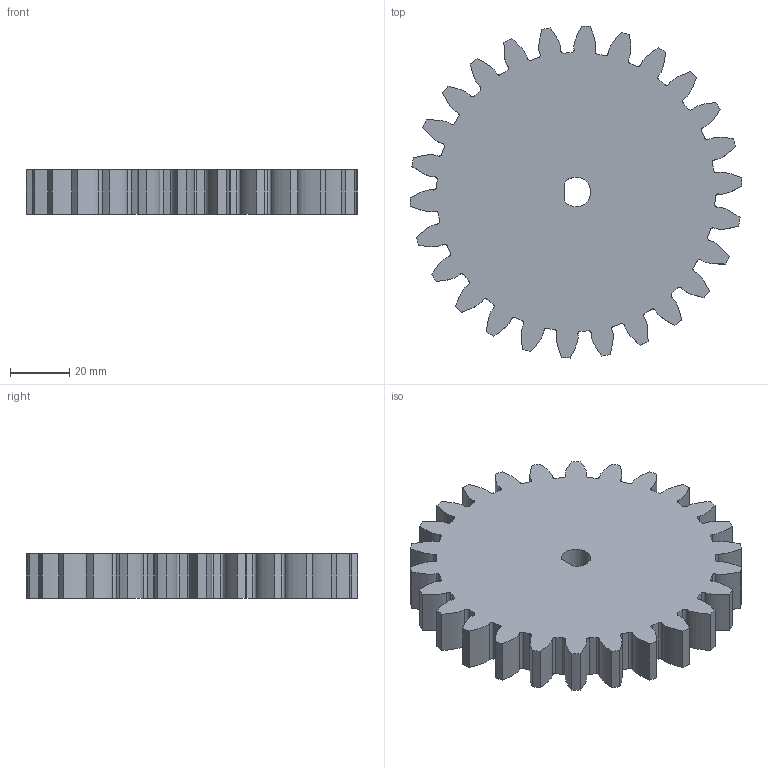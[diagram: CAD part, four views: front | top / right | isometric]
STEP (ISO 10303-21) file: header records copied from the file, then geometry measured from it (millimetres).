
FILE_DESCRIPTION (( 'STEP AP203' ), '1' );
FILE_NAME ('Pignon denture droite m=4 Z=26.STEP', '2025-09-18T12:03:55', ( '' ), ( '' ), 'SwSTEP 2.0', 'SolidWorks 2019', '' );
FILE_SCHEMA (( 'CONFIG_CONTROL_DESIGN' ));
Length unit declared in the file: millimetre
Products named in the file (1): Pignon denture droite m=4 Z=26
Bounding box: 111.93 x 111.93 x 15 mm (x, y, z)
Volume: 124241.6 mm3; surface area: 26977.4 mm2
Topology: 1 solids, 1 shells, 174 faces, 516 edges, 344 vertices
Faces by surface type: cylinder 119, bspline 52, plane 3
Entity records: 6747 total; most frequent: CARTESIAN_POINT 2127, ORIENTED_EDGE 1032, DIRECTION 896, EDGE_CURVE 516, AXIS2_PLACEMENT_3D 361, VERTEX_POINT 344, CIRCLE 238, EDGE_LOOP 176
